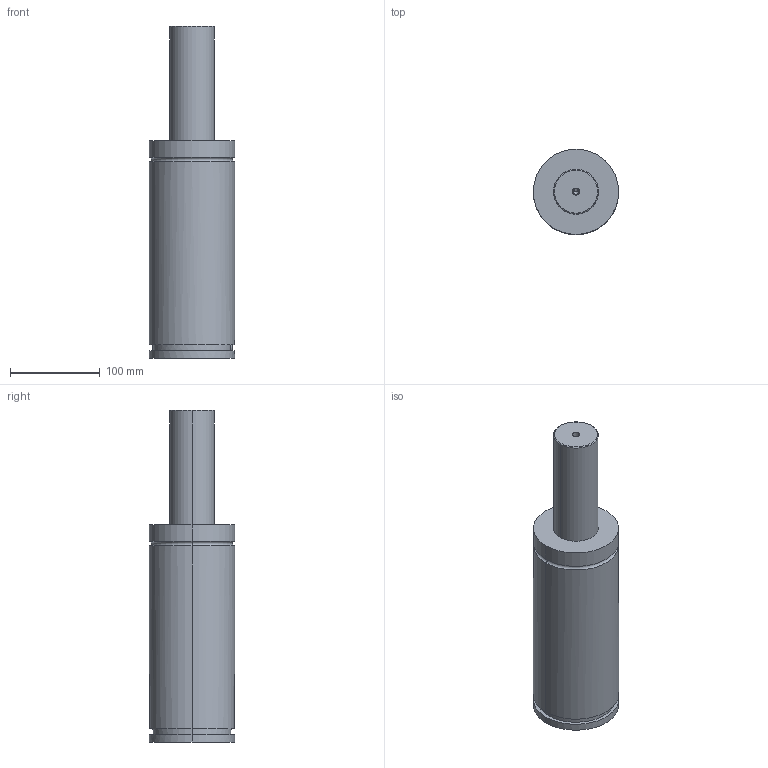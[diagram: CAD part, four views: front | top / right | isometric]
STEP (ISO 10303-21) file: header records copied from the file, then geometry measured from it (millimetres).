
FILE_DESCRIPTION(/* description */ (''),/* implementation_level */ '2;1');
FILE_NAME(/* name */ '3d_gse95-125_03866_r00.stp',/* time_stamp */ '2011-01-10T14:15:18+09:00',/* author */ ('MISUMI'),/* organization */ (''),/* preprocessor_version */ 'ST-DEVELOPER v11',/* originating_system */ 'UGS - NX 5.0',/* authorisation */ '');
FILE_SCHEMA (('CONFIG_CONTROL_DESIGN'));
Length unit declared in the file: millimetre
Products named in the file (1): 3d_gse95-125_03866_r00
Bounding box: 95 x 95 x 370 mm (x, y, z)
Volume: 1951084.3 mm3; surface area: 111798.8 mm2
Topology: 1 solids, 1 shells, 75 faces, 161 edges, 103 vertices
Faces by surface type: cylinder 34, plane 27, cone 10, torus 4
Entity records: 2145 total; most frequent: DIRECTION 393, CARTESIAN_POINT 360, ORIENTED_EDGE 318, AXIS2_PLACEMENT_3D 164, EDGE_CURVE 159, VERTEX_POINT 103, EDGE_LOOP 92, CIRCLE 88
